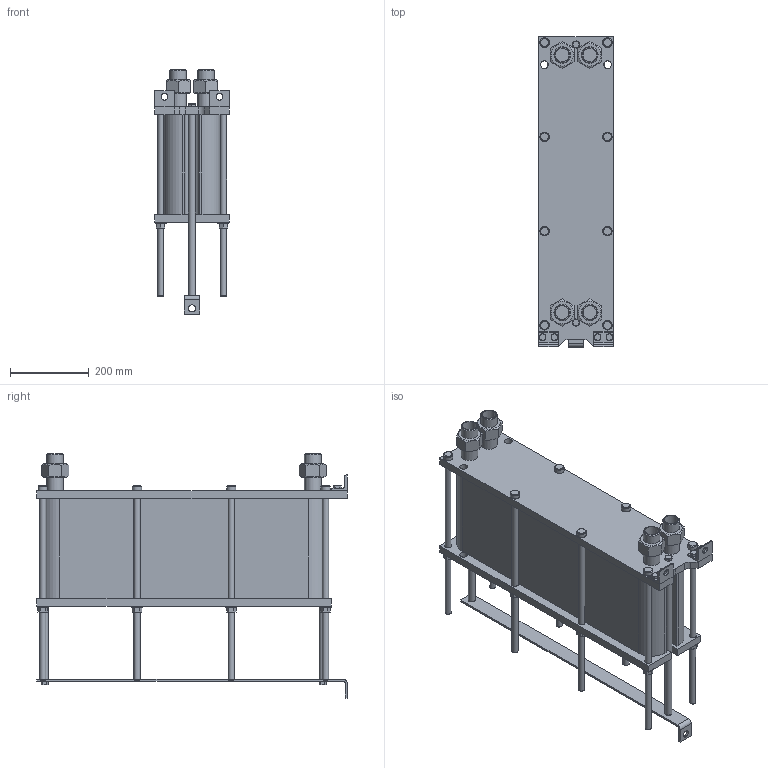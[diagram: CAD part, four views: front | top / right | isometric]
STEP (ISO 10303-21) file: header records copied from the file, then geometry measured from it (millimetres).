
FILE_DESCRIPTION(/* description */ (''),/* implementation_level */ '2;1');
FILE_NAME(/* name */ 'C:\Users\zhuro\Desktop\ENCO\TO\ЭН-008\ЭН-0,5-008-82-1.stp',/* time_stamp */ '2022-06-06T10:52:49+03:00',/* author */ ('zhuro'),/* organization */ (''),/* preprocessor_version */ 'ST-DEVELOPER v18.1',/* originating_system */ 'Autodesk Inventor 2022',/* authorisation */ '');
FILE_SCHEMA (('AUTOMOTIVE_DESIGN { 1 0 10303 214 3 1 1 }'));
Length unit declared in the file: millimetre
Products named in the file (1): ЭН-0,5-008-82-1
Bounding box: 190 x 790 x 622.6 mm (x, y, z)
Volume: 32807243 mm3; surface area: 1869265.8 mm2
Topology: 40 solids, 40 shells, 428 faces, 924 edges, 606 vertices
Faces by surface type: plane 273, cylinder 109, cone 40, torus 6
Full cylindrical faces by diameter (mm): 12 x6, 14 x2, 16 x20, 17 x8, 18 x19, 20 x5, 24 x8, 28 x8, 34.3 x8, 42.3 x8
Entity records: 15843 total; most frequent: CARTESIAN_POINT 5991, DIRECTION 1984, ORIENTED_EDGE 1848, EDGE_CURVE 924, AXIS2_PLACEMENT_3D 715, VERTEX_POINT 606, LINE 554, VECTOR 554
